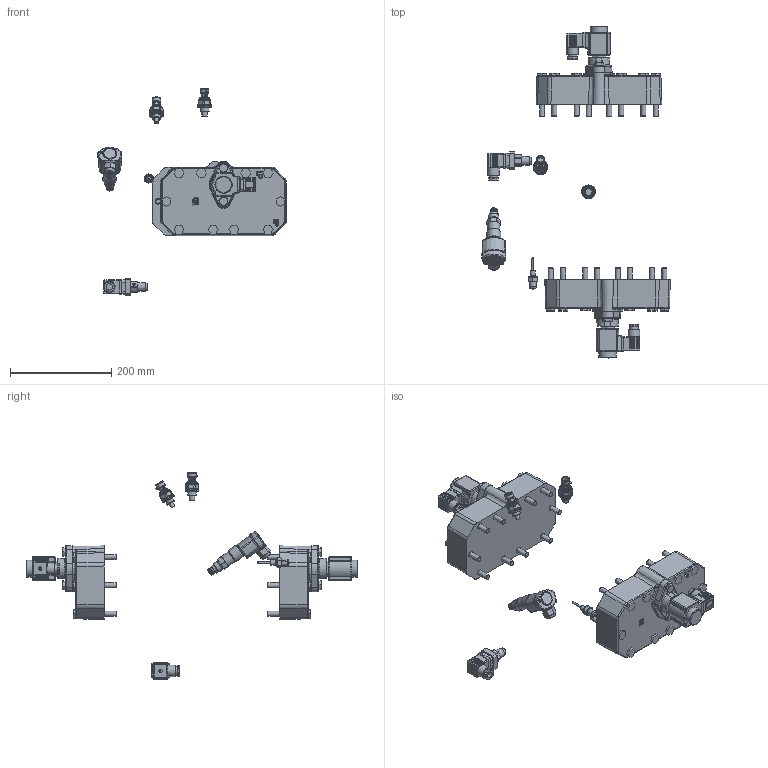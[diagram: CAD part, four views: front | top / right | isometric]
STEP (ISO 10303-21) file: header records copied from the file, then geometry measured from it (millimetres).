
FILE_DESCRIPTION(/* description */ (''),/* implementation_level */ '2;1');
FILE_NAME(/* name */ '8GE-8FE-OPTION.stp',/* time_stamp */ '2023-10-26T08:57:30+02:00',/* author */ (''),/* organization */ (''),/* preprocessor_version */ 'ST-DEVELOPER v19.3',/* originating_system */ 'SIEMENS PLM Software NX2212.3001',/* authorisation */ '');
FILE_SCHEMA (('AUTOMOTIVE_DESIGN { 1 0 10303 214 3 1 1 1 }'));
Products named in the file (6): PRESSURE-TEMPERATURE-SENSOR; OIL-PRESS-CUT-OUT-DELTAP-2; CRANKCASE-HEATER-220V-140W; DIP-BUSH-140W; CYLINDER-HEAD-CR2; 8GE-8FE-OPTION
Assembly tree (6 placements, depth 2):
  8GE-8FE-OPTION
    CYLINDER-HEAD-CR2  x2
    DIP-BUSH-140W
    CRANKCASE-HEATER-220V-140W
    OIL-PRESS-CUT-OUT-DELTAP-2
    PRESSURE-TEMPERATURE-SENSOR
Bounding box: 372.71 x 656.16 x 410.13 mm (x, y, z)
Volume: 4300407.5 mm3; surface area: 406004.2 mm2
Topology: 8 solids, 20 shells, 2446 faces, 6040 edges, 3769 vertices
Faces by surface type: plane 1066, cylinder 648, bspline 371, torus 158, cone 155, extrusion 34, sphere 14
Full cylindrical faces by diameter (mm): 3 x4, 3.5 x2, 4 x1, 4.351 x1, 6 x2, 6.6 x2, 7 x3, 8 x1, 10 x25, 10.287 x1, 10.835 x1, 11 x25, 11.4 x1, 13 x4, 13.67 x2, 14 x2, 14.5 x1, 15 x22, 15.7 x2, 16 x2, 16.95 x2, 17 x4, 17.145 x1, 17.5 x2, 18 x1, 19 x2, 19.8 x1, 20 x1, 21.3 x1, 22 x1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
Entity records: 68482 total; most frequent: CARTESIAN_POINT 23888, ORIENTED_EDGE 7928, DIRECTION 6934, EDGE_CURVE 3964, AXIS2_PLACEMENT_3D 2630, VERTEX_POINT 2571, EDGE_LOOP 1956, ADVANCED_FACE 1685
